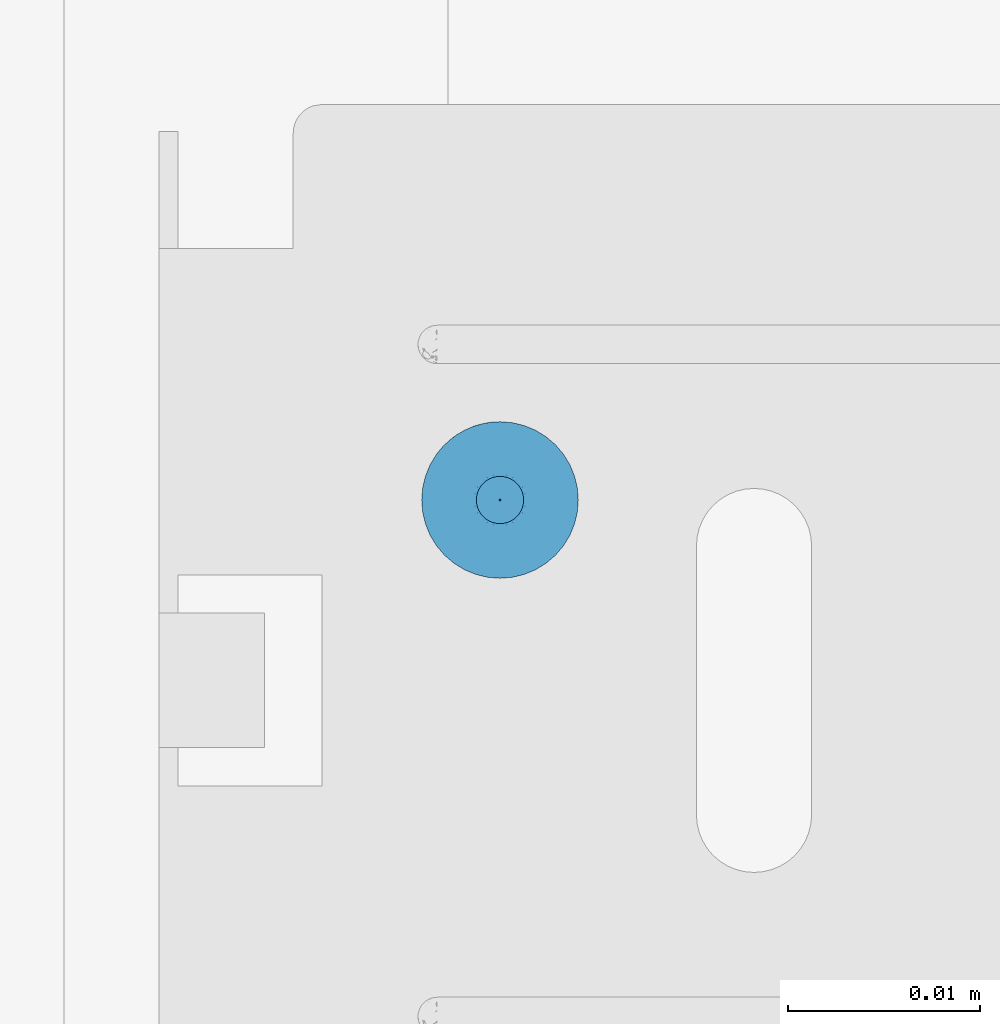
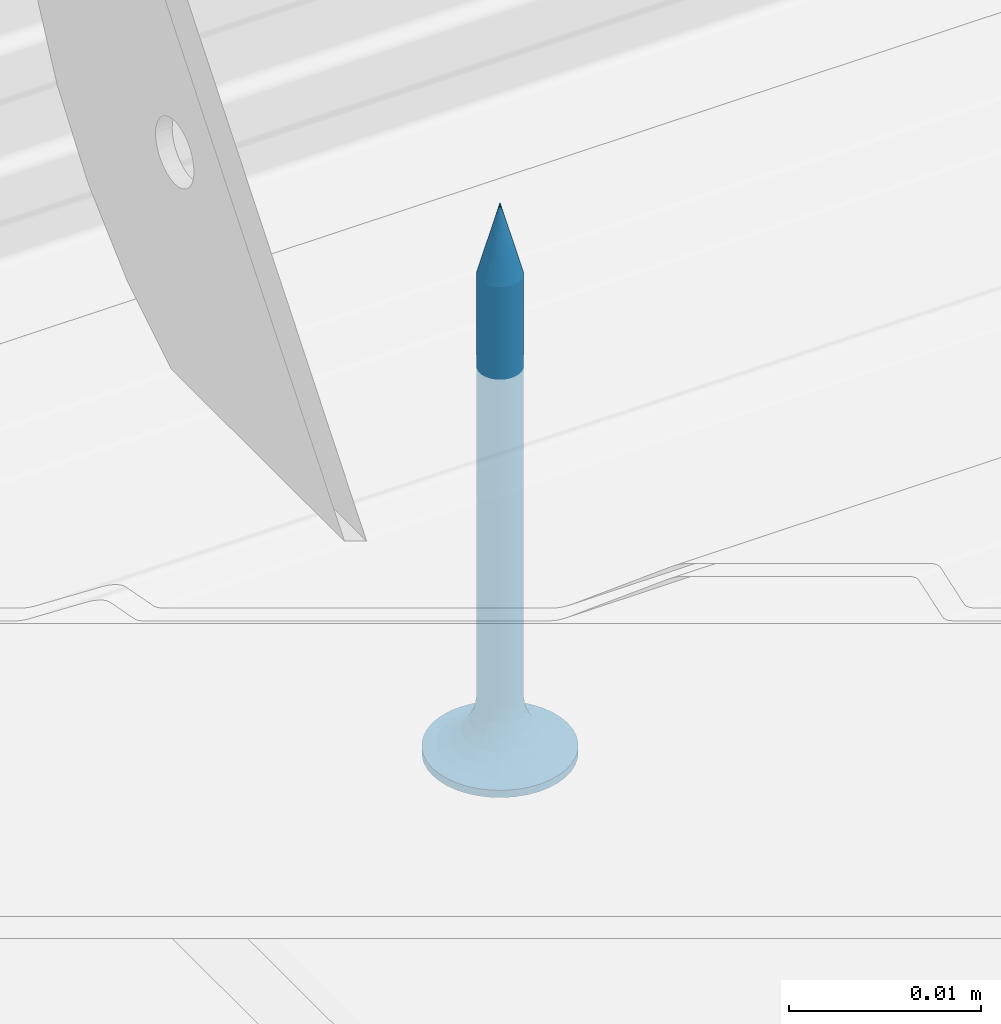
# One storey, part 16 of 73: 1 slab.
"""IFC2X3 building model written with IfcOpenShell, lengths in millimetres."""

import ifcopenshell
import ifcopenshell.guid

model = None  # the IFC model being written
_history = None  # IfcOwnerHistory: only IFC2X3 demands one
_inside = {}  # id of a spatial element -> (the spatial element, [elements in it])
_under = {}  # id of a project, library or spatial element -> (it, [spatial elements below it])
_declared = {}  # id of a project -> (the project, [libraries it declares])
_typed = {}  # id of a type object -> (the type object, [elements of that type])
_made_of = {}  # id of a material, layer set ... -> (it, [elements and type objects made of it])


def new_model(schema):
    """Start an empty IFC model of exactly this schema.

    Asked for "IFC4X3", IfcOpenShell would pick the latest addendum, in which some entities
    have other attributes; the version numbers below select the first issue.
    IFC2X3 requires an IfcOwnerHistory on every rooted entity: one is made here for all.
    """
    global model, _history
    if schema == "IFC4X3":
        model = ifcopenshell.file(schema_version=(4, 3, 0, 0))
    else:
        model = ifcopenshell.file(schema=schema)
    _inside.clear()
    _under.clear()
    _declared.clear()
    _typed.clear()
    _made_of.clear()
    _history = None
    if model.schema == "IFC2X3":
        org = make("IfcOrganization", Name="unknown")
        user = make(
            "IfcPersonAndOrganization",
            ThePerson=make("IfcPerson", FamilyName="unknown"),
            TheOrganization=org,
        )
        app = make(
            "IfcApplication",
            ApplicationDeveloper=org,
            Version="unknown",
            ApplicationFullName="unknown",
            ApplicationIdentifier="unknown",
        )
        _history = make(
            "IfcOwnerHistory",
            OwningUser=user,
            OwningApplication=app,
            ChangeAction="ADDED",
            CreationDate=0,
        )
    return model


def make(cls, **values):
    """One entity of the class cls with the attributes given. An attribute that is None is left unset."""
    return model.create_entity(
        cls, **{name: value for name, value in values.items() if value is not None}
    )


def entity(cls, *values):
    """Any entity or typed value of the class cls, its attributes in the order of the schema. None: left unset."""
    e = model.create_entity(cls)
    for i, value in enumerate(values):
        if value is not None:
            e[i] = value
    return e


def rooted(cls, **values):
    """An entity with a GlobalId (a new one), such as an element, a storey or a relation."""
    return make(cls, GlobalId=ifcopenshell.guid.new(), OwnerHistory=_history, **values)


def si_unit(unit_type, name, prefix=None):
    """IfcSIUnit, for example si_unit("LENGTHUNIT", "METRE", prefix="MILLI")."""
    return make("IfcSIUnit", UnitType=unit_type, Prefix=prefix, Name=name)


def converted_unit(unit_type, name, factor, base, dimensions=None, offset=None):
    """IfcConversionBasedUnit, such as the inch: factor (a typed value) times the base unit."""
    return make(
        "IfcConversionBasedUnit"
        if offset is None
        else "IfcConversionBasedUnitWithOffset",
        ConversionOffset=offset,
        Dimensions=None
        if dimensions is None
        else entity("IfcDimensionalExponents", *dimensions),
        UnitType=unit_type,
        Name=name,
        ConversionFactor=make(
            "IfcMeasureWithUnit", ValueComponent=factor, UnitComponent=base
        ),
    )


def assignment(units):
    """IfcUnitAssignment: the units of a project."""
    return None if units is None else make("IfcUnitAssignment", Units=units)


def point(xyz):
    """IfcCartesianPoint."""
    return None if xyz is None else make("IfcCartesianPoint", Coordinates=xyz)


def direction(xyz):
    """IfcDirection."""
    return None if xyz is None else make("IfcDirection", DirectionRatios=xyz)


def frame(location, z_axis=None, x_axis=None):
    """IfcAxis2Placement3D, a coordinate frame: its origin and axes. An axis left out is left unset."""
    return make(
        "IfcAxis2Placement3D",
        Location=point(location),
        Axis=direction(z_axis),
        RefDirection=direction(x_axis),
    )


def origin():
    """The frame at (0, 0, 0) with its axes left unset."""
    return frame((0.0, 0.0, 0.0))


def origin_with_axes():
    """The frame at (0, 0, 0) with the z axis (0, 0, 1) and the x axis (1, 0, 0) written out."""
    return frame((0.0, 0.0, 0.0), z_axis=(0.0, 0.0, 1.0), x_axis=(1.0, 0.0, 0.0))


def place(relative_to, where):
    """IfcLocalPlacement: puts the frame where relative to a parent placement (None: the world)."""
    return make(
        "IfcLocalPlacement", PlacementRelTo=relative_to, RelativePlacement=where
    )


def context(
    kind, dimensions, precision=None, world=None, true_north=None, identifier=None
):
    """IfcGeometricRepresentationContext, for example the 3D "Model" context."""
    return make(
        "IfcGeometricRepresentationContext",
        ContextIdentifier=identifier,
        ContextType=kind,
        CoordinateSpaceDimension=dimensions,
        Precision=precision,
        WorldCoordinateSystem=world,
        TrueNorth=true_north,
    )


def project(units=None, contexts=None):
    """IfcProject with its units and contexts."""
    return rooted(
        "IfcProject",
        Name="project",
        RepresentationContexts=contexts,
        UnitsInContext=assignment(units),
    )


def spatial(cls, under=None, at=None, **own):
    """A site, building, storey or space (cls), placed at a placement, below another one or the project."""
    s = rooted(cls, ObjectPlacement=at, **own)
    if under is not None:
        _under.setdefault(under.id(), (under, []))[1].append(s)
    return s


def faces_of(points, faces, orient=None, outer=None):
    """IfcFace entities. A face is a list of loops; a loop is a list of indices into points, from 0.

    orient and outer hold one flag for each loop. By default every Orientation is true, the
    first loop of a face is its IfcFaceOuterBound and the others are IfcFaceBound.
    """
    made = []
    for i, loops in enumerate(faces):
        bounds = []
        for j, loop in enumerate(loops):
            is_outer = j == 0 if outer is None else outer[i][j]
            bounds.append(
                make(
                    "IfcFaceOuterBound" if is_outer else "IfcFaceBound",
                    Bound=make("IfcPolyLoop", Polygon=[points[k] for k in loop]),
                    Orientation=True if orient is None else orient[i][j],
                )
            )
        made.append(make("IfcFace", Bounds=bounds))
    return made


def faceted_brep(points, faces, orient=None, outer=None, voids=None):
    """IfcFacetedBrep: a solid bounded by flat faces; with voids (closed shells), ...WithVoids."""
    shared = [point(p) for p in points]
    hull = make("IfcClosedShell", CfsFaces=faces_of(shared, faces, orient, outer))
    if voids is None:
        return make("IfcFacetedBrep", Outer=hull)
    return make(
        "IfcFacetedBrepWithVoids",
        Outer=hull,
        Voids=[
            make(cls, CfsFaces=faces_of(shared, fs, o, b)) for cls, fs, o, b in voids
        ],
    )


def shape(context_of_items, identifier, shape_type, items):
    """IfcShapeRepresentation: the items that make up one representation, for example the "Body"."""
    return make(
        "IfcShapeRepresentation",
        ContextOfItems=context_of_items,
        RepresentationIdentifier=identifier,
        RepresentationType=shape_type,
        Items=items,
    )


def made_of(thing, what):
    """Note that an element or type object is made of a material, layer set ...; save() writes the relation."""
    if what is not None:
        _made_of.setdefault(what.id(), (what, []))[1].append(thing)
    return thing


def element(
    cls,
    number,
    at=None,
    inside=None,
    cuts=None,
    type_object=None,
    material=None,
    context=None,
    identifier="Body",
    shape_type=None,
    held_by="IfcProductDefinitionShape",
    body=None,
    shapes=None,
    **own,
):
    """One element of the class cls, such as IfcWall. Its Tag is "e" and its number.

    at: its placement. inside: the storey or other place that contains it. cuts: it is an
    opening in that element (IfcRelVoidsElement). A single representation is given by context,
    identifier, shape_type and body (its items); several are given by shapes. held_by: the class
    of the entity that holds the representations. save() writes the other relations.
    """
    e = rooted(cls, Tag="e%d" % number, ObjectPlacement=at, **own)
    if body is not None:
        shapes = [shape(context, identifier, shape_type, body)]
    if shapes is not None:
        e.Representation = make(held_by, Representations=shapes)
    if inside is not None:
        _inside.setdefault(inside.id(), (inside, []))[1].append(e)
    if cuts is not None:
        rooted(
            "IfcRelVoidsElement", RelatingBuildingElement=cuts, RelatedOpeningElement=e
        )
    if type_object is not None:
        _typed.setdefault(type_object.id(), (type_object, []))[1].append(e)
    return made_of(e, material)


def aggregate(whole, parts):
    """IfcRelAggregates: a whole, such as a stair, and the parts it consists of."""
    return rooted("IfcRelAggregates", RelatingObject=whole, RelatedObjects=parts)


def save(model, path):
    """Write the relations noted so far, then the file.

    IfcRelAggregates (storeys below a building ...), IfcRelContainedInSpatialStructure (elements
    in a storey), IfcRelDefinesByType, IfcRelAssociatesMaterial and IfcRelDeclares: one each for
    every whole, place, type object, material and project.
    """
    for whole, parts in _under.values():
        aggregate(whole, parts)
    for where, things in _inside.values():
        rooted(
            "IfcRelContainedInSpatialStructure",
            RelatedElements=things,
            RelatingStructure=where,
        )
    for kind, things in _typed.values():
        rooted("IfcRelDefinesByType", RelatedObjects=things, RelatingType=kind)
    for what, things in _made_of.values():
        rooted("IfcRelAssociatesMaterial", RelatedObjects=things, RelatingMaterial=what)
    for by, libraries in _declared.values():
        rooted("IfcRelDeclares", RelatingContext=by, RelatedDefinitions=libraries)
    model.write(path)


model = new_model("IFC2X3")

# Units and contexts
model_context = context("Model", 3, precision=1e-05, world=origin(), true_north=direction((0.0, 1.0, 0.0)))
ifc_project = project(units=[si_unit("LENGTHUNIT", "METRE", prefix="MILLI"), si_unit("AREAUNIT", "SQUARE_METRE"), si_unit("VOLUMEUNIT", "CUBIC_METRE"), converted_unit("PLANEANGLEUNIT", "DEGREE", entity("IfcPlaneAngleMeasure", 0.01745), si_unit("PLANEANGLEUNIT", "RADIAN"), dimensions=[0, 0, 0, 0, 0, 0, 0]), si_unit("SOLIDANGLEUNIT", "STERADIAN"), si_unit("MASSUNIT", "GRAM"), si_unit("TIMEUNIT", "SECOND"), si_unit("THERMODYNAMICTEMPERATUREUNIT", "DEGREE_CELSIUS"), si_unit("LUMINOUSINTENSITYUNIT", "LUMEN")], contexts=[model_context])

# Site, building, storey
site_placement = place(None, origin_with_axes())
site = spatial("IfcSite", under=ifc_project, at=site_placement, Name="Default Site", CompositionType="ELEMENT")
building_placement = place(site_placement, origin_with_axes())
building = spatial("IfcBuilding", under=site, at=building_placement, Name="Default Building", CompositionType="ELEMENT")
storey_placement = place(building_placement, origin_with_axes())
storey = spatial("IfcBuildingStorey", under=building, at=storey_placement, Name="Default Building Storey", CompositionType="ELEMENT", Elevation=0.0)

# Slab
slab_placement = place(storey_placement, frame((2640.616074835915, 2284.732776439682, 4359.506162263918), z_axis=(0.0, -1.0, 2.220446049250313e-16), x_axis=(1.0, 1.802054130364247e-31, 8.115730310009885e-16)))
element("IfcSlab", 1, at=slab_placement, inside=storey, Name="Wkręt RIGIPS TN 35", context=model_context, shape_type="Brep", body=[
    faceted_brep([(-138.4548091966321, -3360.55807436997, 556.5233405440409), (-138.3293964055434, -3360.55807436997, 556.6701800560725), (-138.3293964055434, -3387.475459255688, 556.6701800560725), (-138.4548091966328, -3387.475459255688, 556.5233405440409), (-137.2667048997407, -3387.475459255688, 554.5845305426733), (-137.2667048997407, -3360.55807436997, 554.5845305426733), (-137.4592163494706, -3360.55807436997, 554.5693795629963), (-137.4592163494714, -3387.475459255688, 554.5693795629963), (-136.5890362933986, -3387.475459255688, 554.9298199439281), (-136.4636235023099, -3387.475459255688, 555.0766594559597), (-136.4636235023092, -3360.55807436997, 555.0766594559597), (-136.5890362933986, -3360.55807436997, 554.9298199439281), (-136.4636235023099, -3387.475459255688, 556.5233405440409), (-136.5890362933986, -3387.475459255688, 556.6701800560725), (-136.5890362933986, -3360.55807436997, 556.6701800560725), (-136.4636235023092, -3360.55807436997, 556.5233405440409), (-136.9005263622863, -3387.475459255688, 554.7035091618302), (-136.9005263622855, -3360.55807436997, 554.7035091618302), (-137.0789337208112, -3360.55807436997, 554.6296104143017), (-137.078933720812, -3387.475459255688, 554.6296104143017), (-136.7358758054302, -3360.55807436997, 554.8044071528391), (-136.7358758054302, -3387.475459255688, 554.8044071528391), (-137.6517277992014, -3360.55807436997, 554.5845305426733), (-137.6517277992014, -3387.475459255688, 554.5845305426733), (-136.7358758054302, -3387.475459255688, 556.7955928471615), (-136.7358758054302, -3360.55807436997, 556.7955928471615), (-137.83949897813, -3360.55807436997, 554.6296104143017), (-137.8394989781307, -3387.475459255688, 554.6296104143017), (-138.6746858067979, -3360.55807436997, 555.6074885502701), (-138.6898367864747, -3360.55807436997, 555.8000000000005), (-138.6898367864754, -3387.475459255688, 555.8000000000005), (-138.6746858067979, -3387.475459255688, 555.6074885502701), (-138.3293964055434, -3360.55807436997, 554.9298199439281), (-138.4548091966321, -3360.55807436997, 555.0766594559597), (-138.4548091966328, -3387.475459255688, 555.0766594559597), (-138.3293964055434, -3387.475459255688, 554.9298199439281), (-138.0179063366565, -3387.475459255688, 554.7035091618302), (-138.0179063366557, -3360.55807436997, 554.7035091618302), (-138.1825568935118, -3360.55807436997, 554.8044071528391), (-138.1825568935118, -3387.475459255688, 554.8044071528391), (-136.2888267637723, -3387.475459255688, 555.4197173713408), (-136.2437468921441, -3387.475459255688, 555.6074885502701), (-136.2437468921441, -3360.55807436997, 555.6074885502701), (-136.2888267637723, -3360.55807436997, 555.4197173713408), (-138.6296059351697, -3360.55807436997, 555.4197173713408), (-138.6296059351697, -3387.475459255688, 555.4197173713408), (-136.9005263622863, -3387.475459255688, 556.8964908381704), (-136.9005263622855, -3360.55807436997, 556.8964908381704), (-137.4592163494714, -3387.475459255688, 557.0306204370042), (-137.4592163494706, -3360.55807436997, 557.0306204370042), (-137.2667048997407, -3360.55807436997, 557.0154694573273), (-137.2667048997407, -3387.475459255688, 557.0154694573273), (-138.1825568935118, -3387.475459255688, 556.7955928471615), (-138.1825568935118, -3360.55807436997, 556.7955928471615), (-138.0179063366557, -3360.55807436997, 556.8964908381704), (-138.0179063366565, -3387.475459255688, 556.8964908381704), (-136.3627255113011, -3387.475459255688, 556.3586899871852), (-136.3627255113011, -3360.55807436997, 556.3586899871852), (-136.3627255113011, -3387.475459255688, 555.241310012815), (-136.3627255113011, -3360.55807436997, 555.241310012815), (-138.5557071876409, -3360.55807436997, 555.241310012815), (-138.5557071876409, -3387.475459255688, 555.241310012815), (-136.2285959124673, -3387.475459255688, 555.8000000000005), (-136.2285959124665, -3360.55807436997, 555.8000000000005), (-137.8394989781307, -3387.475459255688, 556.9703895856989), (-137.83949897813, -3360.55807436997, 556.9703895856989), (-137.6517277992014, -3360.55807436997, 557.0154694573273), (-137.6517277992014, -3387.475459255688, 557.0154694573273), (-137.078933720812, -3387.475459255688, 556.9703895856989), (-137.0789337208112, -3360.55807436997, 556.9703895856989), (-136.2437468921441, -3387.475459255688, 555.9925114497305), (-136.2437468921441, -3360.55807436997, 555.9925114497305), (-138.6746858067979, -3360.55807436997, 555.9925114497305), (-138.6746858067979, -3387.475459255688, 555.9925114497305), (-138.6296059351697, -3360.55807436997, 556.1802826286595), (-138.6296059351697, -3387.475459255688, 556.1802826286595), (-136.2888267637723, -3387.475459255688, 556.1802826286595), (-136.2888267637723, -3360.55807436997, 556.1802826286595), (-138.5557071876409, -3360.55807436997, 556.3586899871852), (-138.5557071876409, -3387.475459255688, 556.3586899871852), (-141.5377463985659, -3390.556721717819, 555.8000000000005), (-141.5377463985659, -3391.020944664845, 555.8000000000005), (-141.4875329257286, -3391.020944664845, 555.1619773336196), (-141.4875329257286, -3390.556721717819, 555.1619773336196), (-141.338128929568, -3391.020944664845, 554.539664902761), (-141.338128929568, -3390.556721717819, 554.539664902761), (-141.0932132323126, -3391.020944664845, 553.948386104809), (-141.0932132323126, -3390.556721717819, 553.948386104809), (-140.7588164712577, -3391.020944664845, 553.4027001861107), (-140.7588164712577, -3390.556721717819, 553.4027001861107), (-140.3431726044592, -3391.020944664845, 552.9160437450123), (-140.4541727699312, -3390.556721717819, 553.0314907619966), (-140.1080097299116, -3390.556721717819, 552.6986614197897), (-139.8565161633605, -3391.020944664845, 552.5003998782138), (-139.7251262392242, -3390.556721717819, 552.4088262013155), (-139.3108302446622, -3391.020944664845, 552.1660031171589), (-139.3108302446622, -3390.556721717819, 552.1660031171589), (-138.8708651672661, -3390.556721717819, 551.9735584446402), (-138.7195514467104, -3391.020944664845, 551.9210874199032), (-138.4113302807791, -3390.556721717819, 551.8341600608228), (-137.9385961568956, -3390.556721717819, 551.7497404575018), (-138.0972390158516, -3391.020944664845, 551.7716834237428), (-137.4592163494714, -3391.020944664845, 551.7214699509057), (-137.4592163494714, -3390.556721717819, 551.7214699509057), (-136.8211936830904, -3391.020944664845, 551.7716834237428), (-136.8211936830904, -3390.556721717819, 551.7716834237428), (-136.1988812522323, -3391.020944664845, 551.9210874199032), (-136.1988812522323, -3390.556721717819, 551.9210874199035), (-135.6076024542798, -3391.020944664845, 552.1660031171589), (-135.6076024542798, -3390.556721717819, 552.1660031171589), (-135.0619165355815, -3391.020944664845, 552.5003998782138), (-135.0619165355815, -3390.556721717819, 552.5003998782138), (-134.5752600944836, -3391.020944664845, 552.9160437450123), (-134.5752600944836, -3390.556721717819, 552.9160437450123), (-134.1596162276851, -3391.020944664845, 553.4027001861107), (-134.1596162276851, -3390.556721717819, 553.4027001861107), (-133.8252194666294, -3391.020944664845, 553.948386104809), (-133.8252194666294, -3390.556721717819, 553.948386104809), (-133.580303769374, -3391.020944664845, 554.539664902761), (-133.580303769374, -3390.556721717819, 554.539664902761), (-133.4308997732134, -3391.020944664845, 556.438022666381), (-133.4308997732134, -3390.556721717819, 556.438022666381), (-133.3806863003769, -3390.556721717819, 555.8000000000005), (-133.3806863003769, -3391.020944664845, 555.8000000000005), (-133.4308997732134, -3390.556721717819, 555.1619773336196), (-133.4308997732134, -3391.020944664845, 555.1619773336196), (-133.580303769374, -3391.020944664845, 557.0603350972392), (-133.580303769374, -3390.556721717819, 557.0603350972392), (-133.8252194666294, -3391.020944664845, 557.6516138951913), (-133.8252194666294, -3390.556721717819, 557.6516138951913), (-134.1596162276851, -3391.020944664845, 558.1972998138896), (-134.1596162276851, -3390.556721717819, 558.1972998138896), (-134.5752600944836, -3391.020944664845, 558.683956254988), (-134.5752600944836, -3390.556721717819, 558.683956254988), (-135.0619165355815, -3391.020944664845, 559.0996001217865), (-135.0619165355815, -3390.556721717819, 559.0996001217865), (-135.6076024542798, -3391.020944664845, 559.4339968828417), (-135.6076024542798, -3390.556721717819, 559.4339968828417), (-136.1988812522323, -3391.020944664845, 559.6789125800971), (-136.1988812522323, -3390.556721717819, 559.6789125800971), (-136.8211936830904, -3391.020944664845, 559.8283165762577), (-136.8211936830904, -3390.556721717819, 559.8283165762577), (-137.4592163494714, -3391.020944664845, 559.8785300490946), (-137.4592163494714, -3390.556721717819, 559.8785300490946), (-138.0972390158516, -3391.020944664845, 559.8283165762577), (-138.0972390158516, -3390.556721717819, 559.8283165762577), (-138.7195514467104, -3391.020944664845, 559.6789125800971), (-138.7195514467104, -3390.556721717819, 559.6789125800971), (-139.3108302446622, -3391.020944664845, 559.4339968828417), (-139.3108302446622, -3390.556721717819, 559.4339968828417), (-139.8565161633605, -3391.020944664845, 559.0996001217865), (-139.8565161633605, -3390.556721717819, 559.0996001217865), (-140.3431726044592, -3391.020944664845, 558.683956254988), (-140.3431726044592, -3390.556721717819, 558.683956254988), (-140.7588164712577, -3391.020944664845, 558.1972998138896), (-140.7588164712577, -3390.556721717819, 558.1972998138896), (-141.0932132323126, -3391.020944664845, 557.6516138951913), (-141.0932132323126, -3390.556721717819, 557.6516138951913), (-141.338128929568, -3391.020944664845, 557.0603350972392), (-141.338128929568, -3390.556721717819, 557.0603350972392), (-141.4875329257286, -3391.020944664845, 556.438022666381), (-141.4875329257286, -3390.556721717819, 556.438022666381), (-137.8060615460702, -3388.229732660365, 554.5055560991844), (-137.4592163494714, -3388.229732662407, 554.4598930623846), (-138.1292698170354, -3388.229732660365, 554.6394333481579), (-138.4068150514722, -3388.229732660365, 554.8524012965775), (-138.6197830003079, -3388.229732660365, 555.1299465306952), (-138.7536602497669, -3388.229732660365, 555.4531548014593), (-138.7993232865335, -3388.229732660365, 555.7999999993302), (-138.7536602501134, -3388.229732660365, 556.1468451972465), (-138.6197830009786, -3388.229732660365, 556.4700534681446), (-138.4068150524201, -3388.229732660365, 556.7475987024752), (-138.1292698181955, -3388.229732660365, 556.9605666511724), (-137.8060615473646, -3388.229732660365, 557.0944439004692), (-137.4592163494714, -3388.229732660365, 557.1401069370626), (-137.1123711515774, -3388.229732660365, 557.0944439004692), (-136.7891628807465, -3388.229732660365, 556.9605666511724), (-136.5116176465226, -3388.229732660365, 556.7475987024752), (-136.2986496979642, -3388.229732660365, 556.4700534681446), (-136.1647724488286, -3388.229732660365, 556.1468451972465), (-136.1191094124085, -3388.229732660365, 555.7999999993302), (-136.1647724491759, -3388.229732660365, 555.4531548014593), (-136.2986496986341, -3388.229732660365, 555.1299465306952), (-136.5116176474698, -3388.229732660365, 554.8524012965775), (-136.7891628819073, -3388.229732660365, 554.6394333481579), (-137.1123711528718, -3388.229732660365, 554.5055560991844), (-137.4592163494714, -3388.936142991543, 554.1737111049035), (-137.8801308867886, -3388.936142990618, 554.2291255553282), (-138.2723607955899, -3388.936142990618, 554.39159250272), (-138.6091762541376, -3388.936142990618, 554.6500400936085), (-138.8676238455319, -3388.936142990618, 554.9868555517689), (-139.0300907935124, -3388.936142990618, 555.3790854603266), (-139.0855052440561, -3388.936142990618, 555.7999999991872), (-139.0300907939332, -3388.936142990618, 556.2209145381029), (-138.8676238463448, -3388.936142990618, 556.6131444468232), (-138.6091762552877, -3388.936142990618, 556.949959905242), (-138.2723607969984, -3388.936142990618, 557.2084074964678), (-137.8801308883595, -3388.936142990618, 557.3708744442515), (-137.4592163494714, -3388.936142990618, 557.4262888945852), (-137.0383018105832, -3388.936142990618, 557.3708744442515), (-136.6460719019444, -3388.936142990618, 557.2084074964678), (-136.3092564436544, -3388.936142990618, 556.949959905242), (-136.0508088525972, -3388.936142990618, 556.6131444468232), (-135.8883419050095, -3388.936142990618, 556.2209145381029), (-135.8329274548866, -3388.936142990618, 555.7999999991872), (-135.8883419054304, -3388.936142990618, 555.3790854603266), (-136.0508088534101, -3388.936142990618, 554.9868555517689), (-136.3092564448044, -3388.936142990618, 554.6500400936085), (-136.6460719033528, -3388.936142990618, 554.39159250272), (-137.0383018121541, -3388.936142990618, 554.2291255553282), (-137.4592163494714, -3389.553938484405, 553.727343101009), (-137.9956594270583, -3389.553938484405, 553.7979671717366), (-138.4955447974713, -3389.553938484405, 554.0050264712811), (-138.9248060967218, -3389.553938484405, 554.3344102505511), (-139.2541898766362, -3389.553938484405, 554.7636715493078), (-139.46124917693, -3389.553938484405, 555.2635569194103), (-139.5318732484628, -3389.553938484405, 555.7999999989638), (-139.4612491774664, -3389.553938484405, 556.3364430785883), (-139.2541898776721, -3389.553938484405, 556.8363284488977), (-138.9248060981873, -3389.553938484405, 557.2655897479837), (-138.495544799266, -3389.553938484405, 557.5949735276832), (-137.9956594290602, -3389.553938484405, 557.8020328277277), (-137.4592163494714, -3389.553938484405, 557.8726568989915), (-136.9227732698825, -3389.553938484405, 557.8020328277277), (-136.422887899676, -3389.553938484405, 557.5949735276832), (-135.9936266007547, -3389.553938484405, 557.2655897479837), (-135.6642428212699, -3389.553938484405, 556.8363284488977), (-135.4571835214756, -3389.553938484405, 556.3364430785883), (-135.3865594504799, -3389.553938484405, 555.7999999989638), (-135.457183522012, -3389.553938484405, 555.2635569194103), (-135.6642428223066, -3389.553938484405, 554.7636715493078), (-135.9936266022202, -3389.553938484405, 554.3344102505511), (-136.4228879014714, -3389.553938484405, 554.0050264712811), (-136.9227732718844, -3389.553938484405, 553.7979671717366), (-137.4592163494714, -3390.04747944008, 553.1465393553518), (-138.1459824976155, -3390.047479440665, 553.2369538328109), (-138.7859466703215, -3390.047479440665, 553.5020356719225), (-139.3354963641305, -3390.047479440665, 553.9237199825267), (-139.757180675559, -3390.047479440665, 554.4732696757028), (-140.0222625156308, -3390.047479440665, 555.1132338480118), (-140.1126769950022, -3390.047479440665, 555.7999999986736), (-140.0222625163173, -3390.047479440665, 556.4867661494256), (-139.7571806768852, -3390.047479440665, 557.1267303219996), (-139.3354963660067, -3390.047479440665, 557.6762800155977), (-138.7859466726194, -3390.047479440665, 558.0979643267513), (-138.1459825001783, -3390.047479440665, 558.3630461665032), (-137.4592163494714, -3390.047479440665, 558.4534606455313), (-136.7724501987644, -3390.047479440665, 558.3630461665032), (-136.1324860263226, -3390.047479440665, 558.0979643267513), (-135.5829363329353, -3390.047479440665, 557.6762800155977), (-135.1612520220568, -3390.047479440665, 557.1267303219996), (-134.8961701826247, -3390.047479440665, 556.4867661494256), (-134.8057557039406, -3390.047479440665, 555.7999999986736), (-134.8961701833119, -3390.047479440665, 555.1132338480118), (-135.1612520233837, -3390.047479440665, 554.4732696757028), (-135.5829363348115, -3390.047479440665, 553.9237199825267), (-136.1324860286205, -3390.047479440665, 553.5020356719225), (-136.7724502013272, -3390.047479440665, 553.2369538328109), (-137.4592163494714, -3390.388294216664, 552.4648055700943), (-138.3224281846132, -3390.388294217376, 552.5784495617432), (-139.1268135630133, -3390.388294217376, 552.9116368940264), (-139.8175549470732, -3390.388294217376, 553.4416613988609), (-140.3475794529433, -3390.388294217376, 554.1324027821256), (-140.6807667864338, -3390.388294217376, 554.9367881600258), (-140.7944107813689, -3390.388294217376, 555.7999999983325), (-140.6807667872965, -3390.388294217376, 556.6632118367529), (-140.3475794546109, -3390.388294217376, 557.4675972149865), (-139.8175549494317, -3390.388294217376, 558.1583385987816), (-139.1268135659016, -3390.388294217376, 558.6883631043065), (-138.3224281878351, -3390.388294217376, 559.0215504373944), (-137.4592163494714, -3390.388294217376, 559.1351944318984), (-136.5960045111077, -3390.388294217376, 559.0215504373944), (-135.7916191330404, -3390.388294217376, 558.6883631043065), (-135.1008777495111, -3390.388294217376, 558.1583385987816), (-134.5708532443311, -3390.388294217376, 557.4675972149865), (-134.2376659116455, -3390.388294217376, 556.6632118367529), (-134.1240219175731, -3390.388294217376, 555.7999999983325), (-134.2376659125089, -3390.388294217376, 554.9367881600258), (-134.5708532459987, -3390.388294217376, 554.1324027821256), (-135.1008777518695, -3390.388294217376, 553.4416613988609), (-135.7916191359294, -3390.388294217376, 552.9116368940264), (-136.5960045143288, -3390.388294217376, 552.5784495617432), (-137.4592163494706, -3356.021033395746, 555.8000000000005), (-139.9592163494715, -3391.020944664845, 556.3000000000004), (-137.9592163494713, -3391.020944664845, 556.3000000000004), (-139.9592163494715, -3391.020944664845, 555.3000000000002), (-137.9592163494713, -3391.020944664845, 555.3000000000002), (-137.9592163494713, -3391.020944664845, 553.3000000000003), (-136.9592163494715, -3391.020944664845, 553.3000000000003), (-136.9592163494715, -3391.020944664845, 555.3000000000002), (-134.9592163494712, -3391.020944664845, 555.3000000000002), (-134.9592163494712, -3391.020944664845, 556.3000000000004), (-136.9592163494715, -3391.020944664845, 556.3000000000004), (-136.9592163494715, -3391.020944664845, 558.3000000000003), (-137.9592163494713, -3391.020944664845, 558.3000000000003), (-136.9592163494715, -3390.128974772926, 556.3000000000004), (-134.9592163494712, -3390.128974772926, 556.3000000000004), (-134.9592163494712, -3390.128974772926, 555.3000000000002), (-136.9592163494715, -3390.128974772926, 555.3000000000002), (-136.9592163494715, -3390.128974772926, 553.3000000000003), (-137.9592163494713, -3390.128974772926, 553.3000000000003), (-137.9592163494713, -3390.128974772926, 555.3000000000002), (-139.9592163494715, -3390.128974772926, 555.3000000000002), (-139.9592163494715, -3390.128974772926, 556.3000000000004), (-137.9592163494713, -3390.128974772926, 556.3000000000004), (-137.9592163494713, -3390.128974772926, 558.3000000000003), (-136.9592163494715, -3390.128974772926, 558.3000000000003)], [[[0, 1, 2, 3]], [[4, 5, 6, 7]], [[8, 9, 10, 11]], [[12, 13, 14, 15]], [[16, 17, 18, 19]], [[8, 11, 20, 21]], [[7, 6, 22, 23]], [[24, 25, 14, 13]], [[23, 22, 26, 27]], [[28, 29, 30, 31]], [[32, 33, 34, 35]], [[36, 37, 38, 39]], [[39, 38, 32, 35]], [[40, 41, 42, 43]], [[44, 28, 31, 45]], [[46, 47, 25, 24]], [[21, 20, 17, 16]], [[48, 49, 50, 51]], [[52, 53, 54, 55]], [[56, 12, 15, 57]], [[9, 58, 59, 10]], [[33, 60, 61, 34]], [[41, 62, 63, 42]], [[64, 65, 66, 67]], [[68, 69, 47, 46]], [[58, 40, 43, 59]], [[2, 1, 53, 52]], [[19, 18, 5, 4]], [[27, 26, 37, 36]], [[62, 70, 71, 63]], [[55, 54, 65, 64]], [[67, 66, 49, 48]], [[29, 72, 73, 30]], [[72, 74, 75, 73]], [[70, 76, 77, 71]], [[60, 44, 45, 61]], [[51, 50, 69, 68]], [[74, 78, 79, 75]], [[78, 0, 3, 79]], [[76, 56, 57, 77]], [[80, 81, 82, 83]], [[84, 85, 83, 82]], [[86, 87, 85, 84]], [[87, 86, 88, 89]], [[88, 90, 89]], [[90, 91, 89]], [[92, 91, 93]], [[91, 90, 93]], [[93, 94, 92]], [[93, 95, 94]], [[95, 96, 94]], [[97, 96, 98]], [[96, 95, 98]], [[98, 99, 97]], [[100, 99, 101]], [[99, 98, 101]], [[101, 102, 100]], [[102, 103, 100]], [[103, 102, 104, 105]], [[106, 107, 105, 104]], [[108, 109, 107, 106]], [[109, 108, 110, 111]], [[112, 113, 111, 110]], [[113, 112, 114, 115]], [[116, 117, 115, 114]], [[118, 119, 117, 116]], [[120, 121, 122, 123]], [[123, 122, 124, 125]], [[119, 118, 125, 124]], [[126, 127, 121, 120]], [[128, 129, 127, 126]], [[129, 128, 130, 131]], [[132, 133, 131, 130]], [[133, 132, 134, 135]], [[136, 137, 135, 134]], [[138, 139, 137, 136]], [[139, 138, 140, 141]], [[142, 143, 141, 140]], [[143, 142, 144, 145]], [[146, 147, 145, 144]], [[148, 149, 147, 146]], [[149, 148, 150, 151]], [[152, 153, 151, 150]], [[153, 152, 154, 155]], [[156, 157, 155, 154]], [[158, 159, 157, 156]], [[159, 158, 160, 161]], [[81, 80, 161, 160]], [[162, 7, 23]], [[162, 163, 7]], [[23, 27, 162]], [[162, 27, 164]], [[36, 164, 27]], [[164, 36, 39]], [[39, 165, 164]], [[39, 35, 165]], [[166, 35, 34]], [[166, 165, 35]], [[34, 61, 166]], [[166, 61, 167]], [[45, 167, 61]], [[167, 45, 31]], [[31, 168, 167]], [[31, 30, 168]], [[169, 30, 73]], [[169, 168, 30]], [[73, 75, 169]], [[169, 75, 170]], [[79, 170, 75]], [[170, 79, 3]], [[3, 171, 170]], [[3, 2, 171]], [[172, 2, 52]], [[172, 171, 2]], [[52, 55, 172]], [[172, 55, 173]], [[64, 173, 55]], [[173, 64, 67]], [[67, 174, 173]], [[67, 48, 174]], [[175, 48, 51]], [[175, 174, 48]], [[51, 68, 175]], [[175, 68, 176]], [[46, 176, 68]], [[176, 46, 24]], [[24, 177, 176]], [[24, 13, 177]], [[178, 13, 12]], [[178, 177, 13]], [[12, 56, 178]], [[178, 56, 179]], [[76, 179, 56]], [[179, 76, 70]], [[70, 180, 179]], [[70, 62, 180]], [[181, 62, 41]], [[181, 180, 62]], [[41, 40, 181]], [[181, 40, 182]], [[58, 182, 40]], [[182, 58, 9]], [[9, 183, 182]], [[9, 8, 183]], [[184, 8, 21]], [[184, 183, 8]], [[21, 16, 184]], [[184, 16, 185]], [[19, 185, 16]], [[185, 19, 4]], [[4, 163, 185]], [[4, 7, 163]], [[186, 163, 187]], [[162, 187, 163]], [[164, 188, 187, 162]], [[165, 189, 188, 164]], [[166, 190, 189, 165]], [[167, 191, 190, 166]], [[168, 192, 191, 167]], [[169, 193, 192, 168]], [[170, 194, 193, 169]], [[171, 195, 194, 170]], [[172, 196, 195, 171]], [[173, 197, 196, 172]], [[174, 198, 197, 173]], [[175, 199, 198, 174]], [[176, 200, 199, 175]], [[177, 201, 200, 176]], [[178, 202, 201, 177]], [[179, 203, 202, 178]], [[180, 204, 203, 179]], [[181, 205, 204, 180]], [[182, 206, 205, 181]], [[183, 207, 206, 182]], [[184, 208, 207, 183]], [[185, 209, 208, 184]], [[185, 163, 209]], [[186, 209, 163]], [[210, 186, 211]], [[187, 211, 186]], [[188, 212, 211, 187]], [[189, 213, 212, 188]], [[190, 214, 213, 189]], [[191, 215, 214, 190]], [[192, 216, 215, 191]], [[193, 217, 216, 192]], [[194, 218, 217, 193]], [[195, 219, 218, 194]], [[196, 220, 219, 195]], [[197, 221, 220, 196]], [[198, 222, 221, 197]], [[199, 223, 222, 198]], [[200, 224, 223, 199]], [[201, 225, 224, 200]], [[202, 226, 225, 201]], [[203, 227, 226, 202]], [[204, 228, 227, 203]], [[205, 229, 228, 204]], [[206, 230, 229, 205]], [[207, 231, 230, 206]], [[208, 232, 231, 207]], [[209, 233, 232, 208]], [[209, 186, 233]], [[210, 233, 186]], [[234, 210, 235]], [[211, 235, 210]], [[212, 236, 235, 211]], [[213, 237, 236, 212]], [[214, 238, 237, 213]], [[215, 239, 238, 214]], [[216, 240, 239, 215]], [[217, 241, 240, 216]], [[218, 242, 241, 217]], [[219, 243, 242, 218]], [[220, 244, 243, 219]], [[221, 245, 244, 220]], [[222, 246, 245, 221]], [[223, 247, 246, 222]], [[224, 248, 247, 223]], [[225, 249, 248, 224]], [[226, 250, 249, 225]], [[227, 251, 250, 226]], [[228, 252, 251, 227]], [[229, 253, 252, 228]], [[230, 254, 253, 229]], [[231, 255, 254, 230]], [[232, 256, 255, 231]], [[233, 257, 256, 232]], [[233, 210, 257]], [[234, 257, 210]], [[258, 99, 100]], [[258, 259, 99]], [[100, 103, 258]], [[258, 234, 259]], [[235, 259, 234]], [[259, 96, 97]], [[259, 260, 96]], [[97, 99, 259]], [[236, 260, 259, 235]], [[261, 91, 92]], [[260, 92, 94]], [[260, 261, 92]], [[94, 96, 260]], [[237, 261, 260, 236]], [[262, 87, 89]], [[89, 261, 262]], [[89, 91, 261]], [[238, 262, 261, 237]], [[85, 87, 263]], [[262, 263, 87]], [[239, 263, 262, 238]], [[263, 80, 83]], [[263, 264, 80]], [[83, 85, 263]], [[240, 264, 263, 239]], [[265, 159, 161]], [[161, 264, 265]], [[161, 80, 264]], [[241, 265, 264, 240]], [[265, 266, 157, 159]], [[242, 266, 265, 241]], [[266, 153, 155]], [[266, 267, 153]], [[155, 157, 266]], [[243, 267, 266, 242]], [[268, 149, 151]], [[151, 267, 268]], [[151, 153, 267]], [[244, 268, 267, 243]], [[268, 269, 147, 149]], [[245, 269, 268, 244]], [[269, 143, 145]], [[269, 270, 143]], [[145, 147, 269]], [[246, 270, 269, 245]], [[271, 139, 141]], [[141, 270, 271]], [[141, 143, 270]], [[247, 271, 270, 246]], [[271, 272, 137, 139]], [[248, 272, 271, 247]], [[272, 133, 135]], [[272, 273, 133]], [[135, 137, 272]], [[249, 273, 272, 248]], [[274, 129, 131]], [[131, 273, 274]], [[131, 133, 273]], [[250, 274, 273, 249]], [[274, 275, 127, 129]], [[251, 275, 274, 250]], [[275, 122, 121]], [[275, 276, 122]], [[121, 127, 275]], [[252, 276, 275, 251]], [[277, 119, 124]], [[124, 276, 277]], [[124, 122, 276]], [[253, 277, 276, 252]], [[117, 119, 278]], [[277, 278, 119]], [[254, 278, 277, 253]], [[278, 113, 115]], [[278, 279, 113]], [[115, 117, 278]], [[255, 279, 278, 254]], [[280, 109, 111]], [[111, 279, 280]], [[111, 113, 279]], [[256, 280, 279, 255]], [[107, 109, 281]], [[280, 281, 109]], [[257, 281, 280, 256]], [[257, 234, 281]], [[258, 281, 234]], [[281, 103, 105]], [[281, 258, 103]], [[105, 107, 281]], [[28, 44, 282]], [[282, 29, 28]], [[44, 60, 282]], [[33, 32, 282]], [[282, 60, 33]], [[38, 37, 282]], [[282, 32, 38]], [[37, 26, 282]], [[22, 6, 282]], [[282, 26, 22]], [[5, 18, 282]], [[282, 6, 5]], [[18, 17, 282]], [[20, 11, 282]], [[282, 17, 20]], [[10, 59, 282]], [[282, 11, 10]], [[59, 43, 282]], [[42, 63, 282]], [[282, 43, 42]], [[71, 77, 282]], [[282, 63, 71]], [[77, 57, 282]], [[15, 14, 282]], [[282, 57, 15]], [[25, 47, 282]], [[282, 14, 25]], [[47, 69, 282]], [[50, 49, 282]], [[282, 69, 50]], [[66, 65, 282]], [[282, 49, 66]], [[65, 54, 282]], [[53, 1, 282]], [[282, 54, 53]], [[0, 78, 282]], [[282, 1, 0]], [[78, 74, 282]], [[72, 29, 282]], [[282, 74, 72]], [[283, 156, 154, 284]], [[283, 285, 286, 287, 288, 289, 290, 291, 292, 293, 294, 284, 154, 152, 150, 148, 146, 144, 142, 140, 138, 136, 134, 132, 130, 128, 126, 120, 123, 125, 118, 116, 114, 112, 110, 108, 106, 104, 102, 101, 98, 95, 93, 90, 88, 86, 84, 82, 81, 160, 158, 156]], [[295, 296, 297, 298, 299, 300, 301, 302, 303, 304, 305, 306]], [[297, 290, 289, 298]], [[296, 291, 290, 297]], [[295, 292, 291, 296]], [[306, 293, 292, 295]], [[305, 294, 293, 306]], [[304, 284, 294, 305]], [[303, 283, 284, 304]], [[302, 285, 283, 303]], [[301, 286, 285, 302]], [[300, 287, 286, 301]], [[299, 288, 287, 300]], [[298, 289, 288, 299]]]),
])

save(model, "model.ifc")
